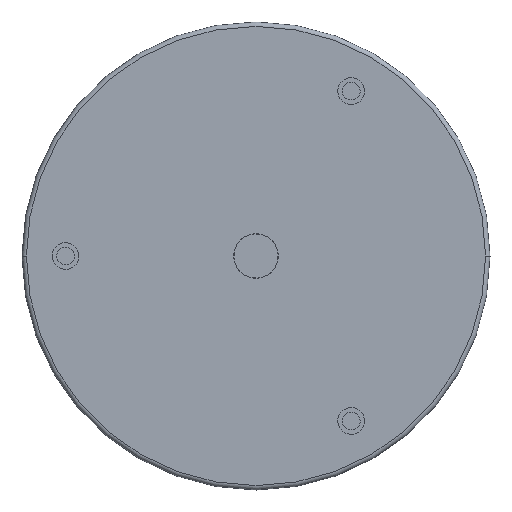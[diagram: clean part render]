
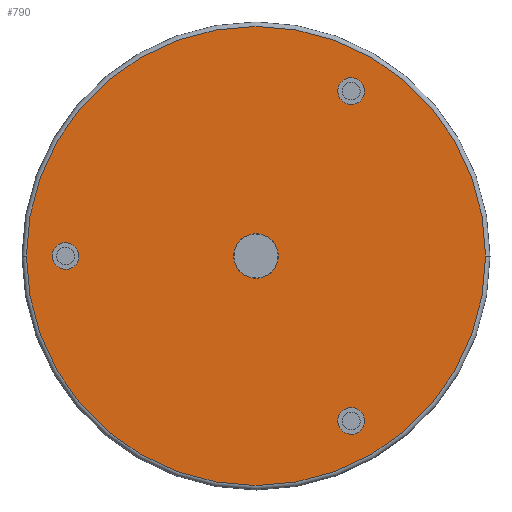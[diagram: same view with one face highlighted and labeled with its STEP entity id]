
A CAD part, front view. The second image highlights one B-rep face of the part: STEP entity #790.
In plain terms, the highlighted planar face has unit normal (0, -1, 0).
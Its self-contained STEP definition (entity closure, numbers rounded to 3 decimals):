
#8 = ORIENTED_EDGE ( 'NONE', *, *, #864, .F. ) ;
#52 = ORIENTED_EDGE ( 'NONE', *, *, #2341, .F. ) ;
#72 = EDGE_CURVE ( 'NONE', #2768, #853, #873, .T. ) ;
#111 = AXIS2_PLACEMENT_3D ( 'NONE', #2987, #525, #248 ) ;
#157 = EDGE_LOOP ( 'NONE', ( #1741, #3472 ) ) ;
#194 = ORIENTED_EDGE ( 'NONE', *, *, #1134, .F. ) ;
#248 = DIRECTION ( 'NONE',  ( 0., 0., -1. ) ) ;
#322 = CARTESIAN_POINT ( 'NONE',  ( 0., 0., 5.1 ) ) ;
#331 = VERTEX_POINT ( 'NONE', #2541 ) ;
#374 = DIRECTION ( 'NONE',  ( 0., 0., -1. ) ) ;
#472 = DIRECTION ( 'NONE',  ( 0., 0., -1. ) ) ;
#504 = CARTESIAN_POINT ( 'NONE',  ( -74., 0., 42.724 ) ) ;
#525 = DIRECTION ( 'NONE',  ( 0., -1., 0. ) ) ;
#531 = CARTESIAN_POINT ( 'NONE',  ( 0., 0., -85.448 ) ) ;
#570 = CARTESIAN_POINT ( 'NONE',  ( -74., 0., 37.624 ) ) ;
#616 = EDGE_CURVE ( 'NONE', #2840, #2711, #3138, .T. ) ;
#645 = DIRECTION ( 'NONE',  ( 0., 0., -1. ) ) ;
#656 = EDGE_CURVE ( 'NONE', #1588, #331, #1534, .T. ) ;
#685 = DIRECTION ( 'NONE',  ( 0., 0., -1. ) ) ;
#708 = CARTESIAN_POINT ( 'NONE',  ( 0., 0., 0. ) ) ;
#738 = ORIENTED_EDGE ( 'NONE', *, *, #1560, .F. ) ;
#777 = CARTESIAN_POINT ( 'NONE',  ( 0., 0., 0. ) ) ;
#790 = ADVANCED_FACE ( 'NONE', ( #3957, #1491, #3047, #3422, #936 ), #1210, .T. ) ;
#853 = VERTEX_POINT ( 'NONE', #3820 ) ;
#864 = EDGE_CURVE ( 'NONE', #2393, #1135, #2819, .T. ) ;
#873 = CIRCLE ( 'NONE', #111, 5.1 ) ;
#881 = CARTESIAN_POINT ( 'NONE',  ( 0., 0., 0. ) ) ;
#936 = FACE_OUTER_BOUND ( 'NONE', #157, .T. ) ;
#1082 = CIRCLE ( 'NONE', #1610, 103. ) ;
#1134 = EDGE_CURVE ( 'NONE', #1135, #2393, #2739, .T. ) ;
#1135 = VERTEX_POINT ( 'NONE', #3087 ) ;
#1210 = PLANE ( 'NONE',  #3913 ) ;
#1243 = DIRECTION ( 'NONE',  ( 0., -1., 0. ) ) ;
#1244 = CARTESIAN_POINT ( 'NONE',  ( 0., 0., 0. ) ) ;
#1262 = ORIENTED_EDGE ( 'NONE', *, *, #72, .F. ) ;
#1398 = AXIS2_PLACEMENT_3D ( 'NONE', #2935, #2330, #1760 ) ;
#1411 = CIRCLE ( 'NONE', #2431, 5.1 ) ;
#1441 = DIRECTION ( 'NONE',  ( 0., -1., 0. ) ) ;
#1478 = EDGE_CURVE ( 'NONE', #1545, #2448, #1082, .T. ) ;
#1491 = FACE_BOUND ( 'NONE', #3086, .T. ) ;
#1534 = CIRCLE ( 'NONE', #2434, 5.1 ) ;
#1545 = VERTEX_POINT ( 'NONE', #2107 ) ;
#1552 = CARTESIAN_POINT ( 'NONE',  ( 0., 0., -80.348 ) ) ;
#1560 = EDGE_CURVE ( 'NONE', #853, #2768, #1411, .T. ) ;
#1588 = VERTEX_POINT ( 'NONE', #570 ) ;
#1594 = CARTESIAN_POINT ( 'NONE',  ( 74., 0., 42.724 ) ) ;
#1610 = AXIS2_PLACEMENT_3D ( 'NONE', #881, #1441, #2072 ) ;
#1741 = ORIENTED_EDGE ( 'NONE', *, *, #3004, .T. ) ;
#1760 = DIRECTION ( 'NONE',  ( 0., 0., -1. ) ) ;
#1836 = EDGE_LOOP ( 'NONE', ( #2698, #52 ) ) ;
#1904 = DIRECTION ( 'NONE',  ( 0., 0., -1. ) ) ;
#1971 = DIRECTION ( 'NONE',  ( 0., -1., 0. ) ) ;
#2026 = DIRECTION ( 'NONE',  ( 0., -1., 0. ) ) ;
#2072 = DIRECTION ( 'NONE',  ( 0., 0., -1. ) ) ;
#2077 = DIRECTION ( 'NONE',  ( 0., -1., 0. ) ) ;
#2107 = CARTESIAN_POINT ( 'NONE',  ( 0., 0., 103. ) ) ;
#2129 = DIRECTION ( 'NONE',  ( 0., 0., -1. ) ) ;
#2269 = CARTESIAN_POINT ( 'NONE',  ( 74., 0., 37.624 ) ) ;
#2308 = CARTESIAN_POINT ( 'NONE',  ( 0., 0., -103. ) ) ;
#2330 = DIRECTION ( 'NONE',  ( 0., -1., 0. ) ) ;
#2341 = EDGE_CURVE ( 'NONE', #2711, #2840, #3445, .T. ) ;
#2393 = VERTEX_POINT ( 'NONE', #2269 ) ;
#2431 = AXIS2_PLACEMENT_3D ( 'NONE', #531, #3883, #2129 ) ;
#2434 = AXIS2_PLACEMENT_3D ( 'NONE', #504, #3367, #1904 ) ;
#2448 = VERTEX_POINT ( 'NONE', #2308 ) ;
#2457 = CARTESIAN_POINT ( 'NONE',  ( 0., 0., 0. ) ) ;
#2492 = AXIS2_PLACEMENT_3D ( 'NONE', #777, #2026, #472 ) ;
#2541 = CARTESIAN_POINT ( 'NONE',  ( -74., 0., 47.824 ) ) ;
#2683 = ORIENTED_EDGE ( 'NONE', *, *, #656, .F. ) ;
#2698 = ORIENTED_EDGE ( 'NONE', *, *, #616, .F. ) ;
#2711 = VERTEX_POINT ( 'NONE', #322 ) ;
#2739 = CIRCLE ( 'NONE', #3781, 5.1 ) ;
#2748 = DIRECTION ( 'NONE',  ( 0., -1., 0. ) ) ;
#2768 = VERTEX_POINT ( 'NONE', #1552 ) ;
#2819 = CIRCLE ( 'NONE', #3267, 5.1 ) ;
#2840 = VERTEX_POINT ( 'NONE', #3111 ) ;
#2847 = DIRECTION ( 'NONE',  ( 0., -1., 0. ) ) ;
#2935 = CARTESIAN_POINT ( 'NONE',  ( -74., 0., 42.724 ) ) ;
#2961 = EDGE_CURVE ( 'NONE', #331, #1588, #3451, .T. ) ;
#2963 = DIRECTION ( 'NONE',  ( 0., 0., -1. ) ) ;
#2987 = CARTESIAN_POINT ( 'NONE',  ( 0., 0., -85.448 ) ) ;
#3004 = EDGE_CURVE ( 'NONE', #2448, #1545, #3126, .T. ) ;
#3047 = FACE_BOUND ( 'NONE', #3928, .T. ) ;
#3086 = EDGE_LOOP ( 'NONE', ( #2683, #3600 ) ) ;
#3087 = CARTESIAN_POINT ( 'NONE',  ( 74., 0., 47.824 ) ) ;
#3111 = CARTESIAN_POINT ( 'NONE',  ( 0., 0., -5.1 ) ) ;
#3126 = CIRCLE ( 'NONE', #2492, 103. ) ;
#3138 = CIRCLE ( 'NONE', #3533, 5.1 ) ;
#3243 = EDGE_LOOP ( 'NONE', ( #738, #1262 ) ) ;
#3267 = AXIS2_PLACEMENT_3D ( 'NONE', #3441, #2847, #3481 ) ;
#3367 = DIRECTION ( 'NONE',  ( 0., -1., 0. ) ) ;
#3422 = FACE_BOUND ( 'NONE', #3243, .T. ) ;
#3441 = CARTESIAN_POINT ( 'NONE',  ( 74., 0., 42.724 ) ) ;
#3445 = CIRCLE ( 'NONE', #3950, 5.1 ) ;
#3451 = CIRCLE ( 'NONE', #1398, 5.1 ) ;
#3472 = ORIENTED_EDGE ( 'NONE', *, *, #1478, .T. ) ;
#3481 = DIRECTION ( 'NONE',  ( 0., 0., -1. ) ) ;
#3533 = AXIS2_PLACEMENT_3D ( 'NONE', #1244, #2077, #2963 ) ;
#3600 = ORIENTED_EDGE ( 'NONE', *, *, #2961, .F. ) ;
#3781 = AXIS2_PLACEMENT_3D ( 'NONE', #1594, #1243, #685 ) ;
#3820 = CARTESIAN_POINT ( 'NONE',  ( 0., 0., -90.548 ) ) ;
#3883 = DIRECTION ( 'NONE',  ( 0., -1., 0. ) ) ;
#3913 = AXIS2_PLACEMENT_3D ( 'NONE', #2457, #2748, #645 ) ;
#3928 = EDGE_LOOP ( 'NONE', ( #8, #194 ) ) ;
#3950 = AXIS2_PLACEMENT_3D ( 'NONE', #708, #1971, #374 ) ;
#3957 = FACE_BOUND ( 'NONE', #1836, .T. ) ;
